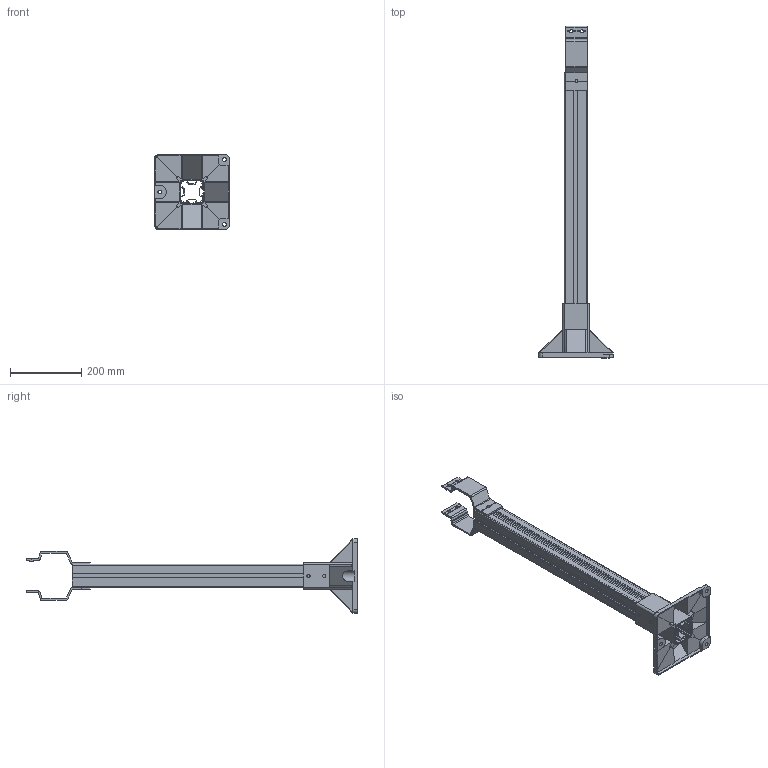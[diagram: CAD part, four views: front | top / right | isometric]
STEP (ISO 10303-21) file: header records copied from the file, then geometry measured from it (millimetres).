
FILE_DESCRIPTION (( 'STEP AP214' ), '1' );
FILE_NAME ('FM-PC64.STEP', '2011-04-13T14:26:20', ( '.' ), ( '' ), 'SwSTEP 2.0', 'SolidWorks 2010', '' );
FILE_SCHEMA (( 'AUTOMOTIVE_DESIGN' ));
Length unit declared in the file: millimetre
Products named in the file (4): FM-PC64; FAVBS-60M_Default; TC64_TC64 lg 800; EC210-64.embase alu 210x210
Assembly tree (4 placements, depth 2):
  FM-PC64
    FAVBS-60M_Default  x2
    TC64_TC64 lg 800
    EC210-64.embase alu 210x210
Bounding box: 210 x 930.11 x 210 mm (x, y, z)
Volume: 996820.9 mm3; surface area: 914875.9 mm2
Topology: 4 solids, 8 shells, 432 faces, 1238 edges, 816 vertices
Faces by surface type: plane 278, cylinder 154
Entity records: 12591 total; most frequent: CARTESIAN_POINT 2416, ORIENTED_EDGE 2182, DIRECTION 2027, EDGE_CURVE 1091, LINE 789, VECTOR 789, VERTEX_POINT 720, AXIS2_PLACEMENT_3D 619
